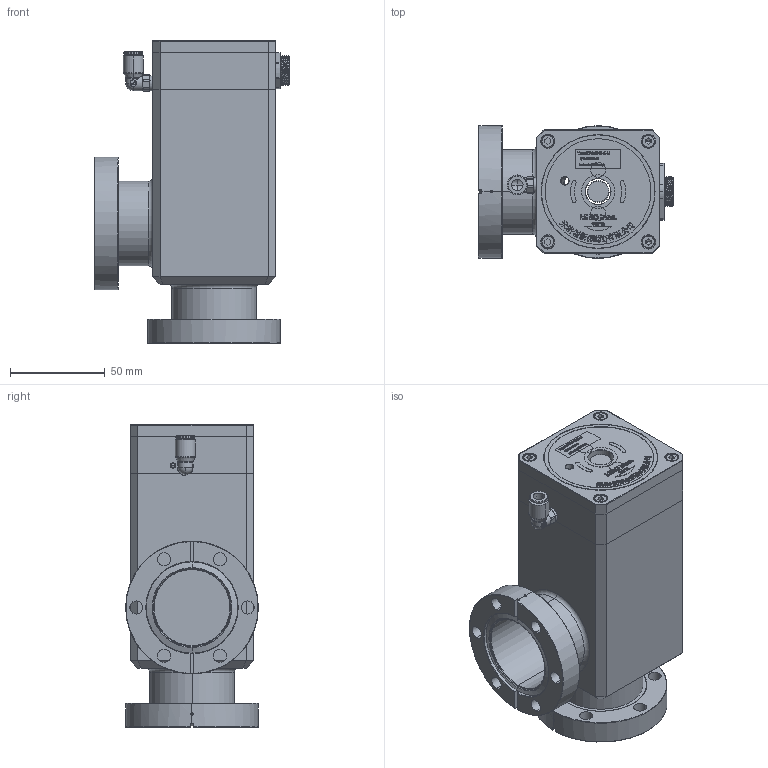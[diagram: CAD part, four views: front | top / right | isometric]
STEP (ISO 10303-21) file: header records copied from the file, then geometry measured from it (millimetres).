
FILE_DESCRIPTION (( 'STEP AP203' ), '1' );
FILE_NAME ('CF40褒概.STEP', '2024-03-01T08:27:30', ( '' ), ( '' ), 'SwSTEP 2.0', 'SolidWorks 2023', '' );
FILE_SCHEMA (( 'CONFIG_CONTROL_DESIGN' ));
Length unit declared in the file: millimetre
Products named in the file (1): CF40角阀
Bounding box: 102.7 x 69.9 x 159.22 mm (x, y, z)
Surface area: 78769 mm2 (no closed solid volume)
Topology: 0 solids, 41 shells, 904 faces, 4311 edges, 3295 vertices
Faces by surface type: plane 407, bspline 215, cylinder 175, torus 64, cone 41, sphere 2
Entity records: 63461 total; most frequent: CARTESIAN_POINT 33023, ORIENTED_EDGE 5981, DIRECTION 4844, EDGE_CURVE 4294, VERTEX_POINT 3295, LINE 2348, VECTOR 2348, B_SPLINE_CURVE_WITH_KNOTS 1378
